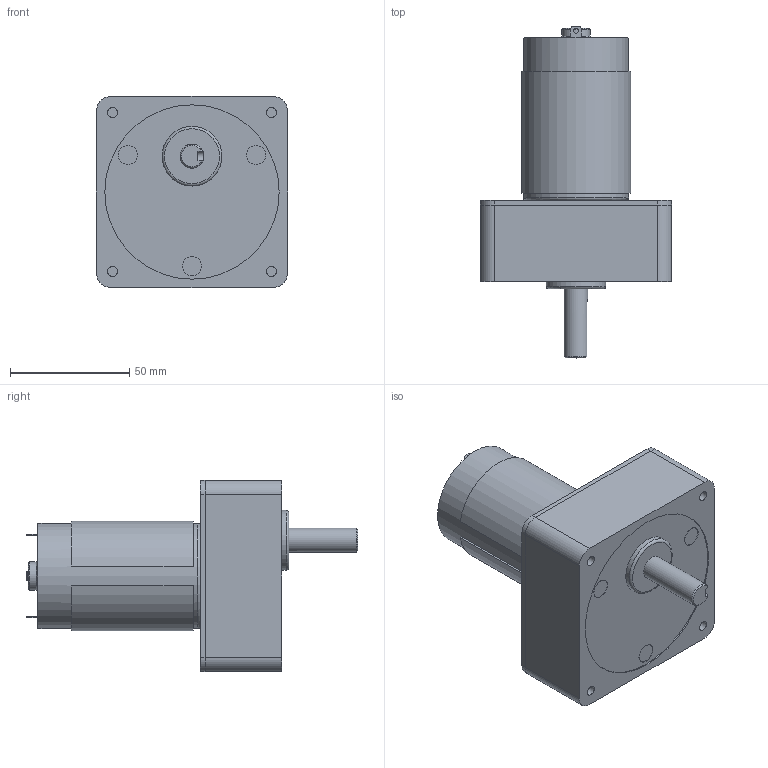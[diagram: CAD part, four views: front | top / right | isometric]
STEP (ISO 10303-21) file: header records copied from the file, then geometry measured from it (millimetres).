
FILE_DESCRIPTION(/* description */ (''),/* implementation_level */ '2;1');
FILE_NAME(/* name */ 'TP-4668-DM-2.stp',/* time_stamp */ '2024-05-31T18:12:13+09:00',/* author */ ('user'),/* organization */ (''),/* preprocessor_version */ 'ST-DEVELOPER v20',/* originating_system */ 'Autodesk Inventor 2024',/* authorisation */ '');
FILE_SCHEMA (('AUTOMOTIVE_DESIGN { 1 0 10303 214 3 1 1 }'));
Length unit declared in the file: millimetre
Products named in the file (4): TP-4668-DM-5~18; tp_4668; DM-2; BR0035-Y014
Assembly tree (3 placements, depth 2):
  TP-4668-DM-5~18
    tp_4668
    DM-2
    BR0035-Y014
Bounding box: 80 x 139 x 80 mm (x, y, z)
Volume: 312157.7 mm3; surface area: 54497.2 mm2
Topology: 4 solids, 4 shells, 117 faces, 259 edges, 171 vertices
Faces by surface type: plane 55, cylinder 51, cone 7, torus 4
Full cylindrical faces by diameter (mm): 2 x2, 2.459 x3, 4 x2, 4.134 x4, 5.5 x4, 8 x3, 10 x1, 12 x2, 15.1 x1, 25 x1, 42 x1, 44 x1, 73 x2
Entity records: 3451 total; most frequent: DIRECTION 620, CARTESIAN_POINT 573, ORIENTED_EDGE 512, EDGE_CURVE 256, AXIS2_PLACEMENT_3D 244, VERTEX_POINT 171, EDGE_LOOP 155, LINE 132
